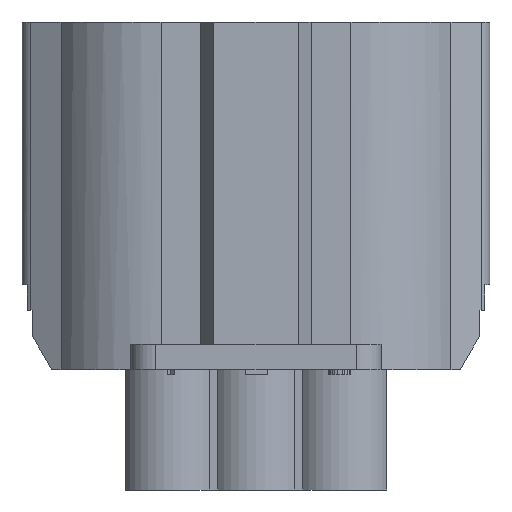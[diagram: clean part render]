
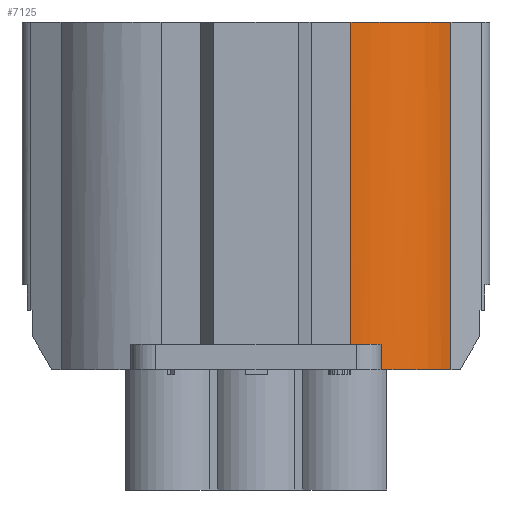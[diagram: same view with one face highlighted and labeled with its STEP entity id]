
A CAD part, front view. The second image highlights one B-rep face of the part: STEP entity #7125.
In plain terms, the highlighted cylindrical face has radius 6.9 mm (diameter 13.8 mm), a partial arc.
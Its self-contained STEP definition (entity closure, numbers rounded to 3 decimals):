
#208=CARTESIAN_POINT('',(5.6,-1.75,0.));
#209=DIRECTION('',(0.,0.,-1.));
#210=DIRECTION('',(0.855,-0.519,0.));
#211=AXIS2_PLACEMENT_3D('',#208,#209,#210);
#562=CARTESIAN_POINT('',(5.6,-1.75,-20.5));
#563=DIRECTION('',(0.,0.,-1.));
#564=DIRECTION('',(0.855,-0.519,0.));
#565=AXIS2_PLACEMENT_3D('',#562,#563,#564);
#1506=DIRECTION('',(0.,0.,1.));
#1507=VECTOR('',#1506,20.5);
#1508=CARTESIAN_POINT('',(11.5,-5.328,-20.5));
#1509=LINE('',#1508,#1507);
#1518=DIRECTION('',(0.,0.,-1.));
#1519=VECTOR('',#1518,19.);
#1520=CARTESIAN_POINT('',(5.6,-8.65,0.));
#1521=LINE('',#1520,#1519);
#1526=CARTESIAN_POINT('',(5.6,-1.75,-19.));
#1527=DIRECTION('',(0.,0.,1.));
#1528=DIRECTION('',(0.,-1.,0.));
#1529=AXIS2_PLACEMENT_3D('',#1526,#1527,#1528);
#1618=DIRECTION('',(0.,0.,1.));
#1619=VECTOR('',#1618,1.5);
#1620=CARTESIAN_POINT('',(7.4,-8.411,-20.5));
#1621=LINE('',#1620,#1619);
#4424=CARTESIAN_POINT('',(11.5,-5.328,0.));
#4425=CARTESIAN_POINT('',(5.6,-8.65,0.));
#4426=VERTEX_POINT('',#4424);
#4427=VERTEX_POINT('',#4425);
#4444=CARTESIAN_POINT('',(11.5,-5.328,-20.5));
#4445=VERTEX_POINT('',#4444);
#4935=CARTESIAN_POINT('',(5.6,-8.65,-19.));
#4936=CARTESIAN_POINT('',(7.4,-8.411,-19.));
#4937=VERTEX_POINT('',#4935);
#4938=VERTEX_POINT('',#4936);
#4939=CARTESIAN_POINT('',(7.4,-8.411,-20.5));
#4940=VERTEX_POINT('',#4939);
#7109=CARTESIAN_POINT('',(5.6,-1.75,0.));
#7110=DIRECTION('',(0.,0.,1.));
#7111=DIRECTION('',(1.,0.,0.));
#7112=AXIS2_PLACEMENT_3D('',#7109,#7110,#7111);
#7113=CYLINDRICAL_SURFACE('',#7112,6.9);
#7115=ORIENTED_EDGE('',*,*,#7114,.F.);
#7117=ORIENTED_EDGE('',*,*,#7116,.F.);
#7118=ORIENTED_EDGE('',*,*,#5799,.F.);
#7119=ORIENTED_EDGE('',*,*,#7097,.F.);
#7120=ORIENTED_EDGE('',*,*,#6065,.T.);
#7122=ORIENTED_EDGE('',*,*,#7121,.T.);
#7123=EDGE_LOOP('',(#7115,#7117,#7118,#7119,#7120,#7122));
#7124=FACE_OUTER_BOUND('',#7123,.F.);
#7125=ADVANCED_FACE('',(#7124),#7113,.T.);
#212=CIRCLE('',#211,6.9);
#566=CIRCLE('',#565,6.9);
#1530=CIRCLE('',#1529,6.9);
#5799=EDGE_CURVE('',#4426,#4427,#212,.T.);
#6065=EDGE_CURVE('',#4445,#4940,#566,.T.);
#7097=EDGE_CURVE('',#4445,#4426,#1509,.T.);
#7114=EDGE_CURVE('',#4937,#4938,#1530,.T.);
#7116=EDGE_CURVE('',#4427,#4937,#1521,.T.);
#7121=EDGE_CURVE('',#4940,#4938,#1621,.T.);
